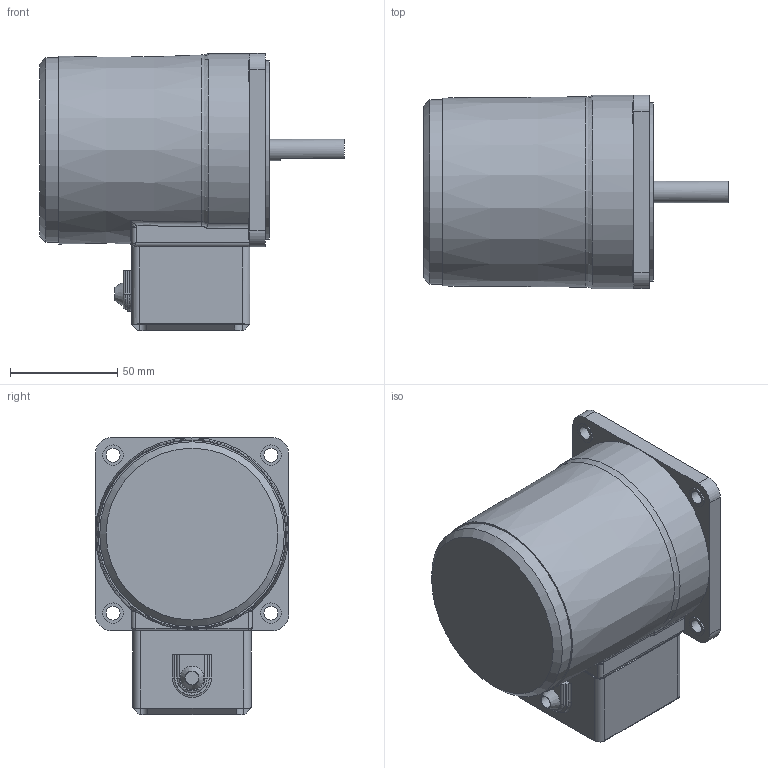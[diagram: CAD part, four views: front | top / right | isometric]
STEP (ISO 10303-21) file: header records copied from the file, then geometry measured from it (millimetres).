
FILE_DESCRIPTION((''),'2;1');
FILE_NAME('D:\STP파일\40W MOTOR\T1 BOX TYPE\S9I40D-T1.stp','2013-05-20T16:56:59',('leebh'),(''),'Autodesk Inventor 2011','Autodesk Inventor 2011','');
FILE_SCHEMA(('AUTOMOTIVE_DESIGN { 1 0 10303 214 1 1 1 1 }'));
Length unit declared in the file: millimetre
Products named in the file (1): 부품3
Bounding box: 142 x 90 x 129 mm (x, y, z)
Volume: 778819.6 mm3; surface area: 58759.1 mm2
Topology: 1 solids, 2 shells, 150 faces, 374 edges, 236 vertices
Faces by surface type: plane 70, cylinder 55, bspline 18, torus 4, cone 3
Full cylindrical faces by diameter (mm): 6.5 x4, 8 x1, 9.5 x4, 10 x1, 40 x1, 83 x1, 86 x1
Entity records: 4879 total; most frequent: CARTESIAN_POINT 1361, DIRECTION 727, ORIENTED_EDGE 700, EDGE_CURVE 350, AXIS2_PLACEMENT_3D 274, VERTEX_POINT 233, EDGE_LOOP 187, VECTOR 179
